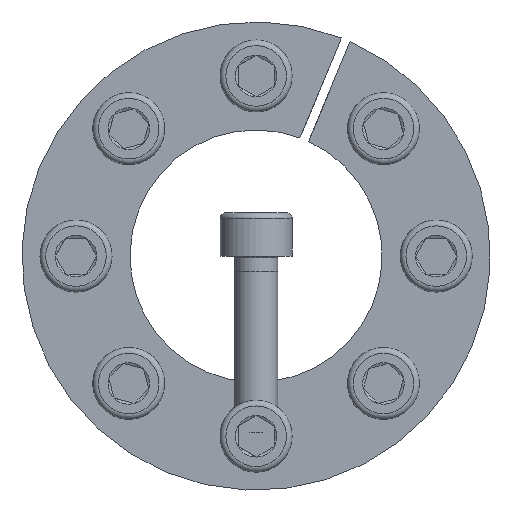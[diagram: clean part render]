
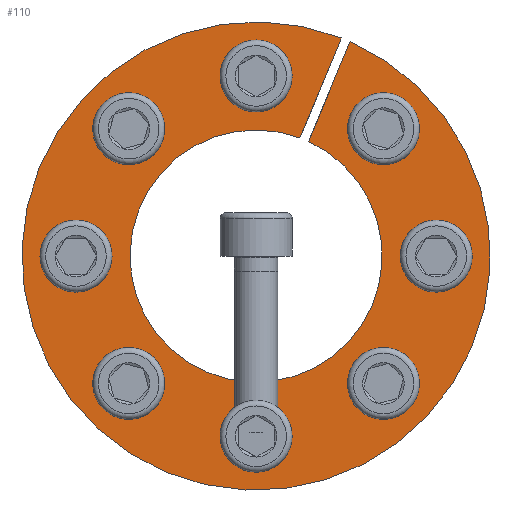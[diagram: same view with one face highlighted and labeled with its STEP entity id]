
A CAD part, front view. The second image highlights one B-rep face of the part: STEP entity #110.
In plain terms, the highlighted planar face has unit normal (0, -1, 0).
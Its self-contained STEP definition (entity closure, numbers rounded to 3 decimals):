
#110 = ADVANCED_FACE( '', ( #246, #247, #248, #249, #250, #251, #252, #253, #254 ), #255, .T. );
#246 = FACE_BOUND( '', #414, .T. );
#247 = FACE_BOUND( '', #415, .T. );
#248 = FACE_BOUND( '', #416, .T. );
#249 = FACE_BOUND( '', #417, .T. );
#250 = FACE_BOUND( '', #418, .T. );
#251 = FACE_BOUND( '', #419, .T. );
#252 = FACE_BOUND( '', #420, .T. );
#253 = FACE_BOUND( '', #421, .T. );
#254 = FACE_OUTER_BOUND( '', #422, .T. );
#255 = PLANE( '', #423 );
#414 = EDGE_LOOP( '', ( #686 ) );
#415 = EDGE_LOOP( '', ( #687 ) );
#416 = EDGE_LOOP( '', ( #688 ) );
#417 = EDGE_LOOP( '', ( #689 ) );
#418 = EDGE_LOOP( '', ( #690 ) );
#419 = EDGE_LOOP( '', ( #691 ) );
#420 = EDGE_LOOP( '', ( #692 ) );
#421 = EDGE_LOOP( '', ( #693 ) );
#422 = EDGE_LOOP( '', ( #694, #695, #696, #697 ) );
#423 = AXIS2_PLACEMENT_3D( '', #698, #699, #700 );
#686 = ORIENTED_EDGE( '', *, *, #917, .T. );
#687 = ORIENTED_EDGE( '', *, *, #907, .T. );
#688 = ORIENTED_EDGE( '', *, *, #919, .T. );
#689 = ORIENTED_EDGE( '', *, *, #915, .T. );
#690 = ORIENTED_EDGE( '', *, *, #887, .T. );
#691 = ORIENTED_EDGE( '', *, *, #920, .T. );
#692 = ORIENTED_EDGE( '', *, *, #868, .T. );
#693 = ORIENTED_EDGE( '', *, *, #921, .T. );
#694 = ORIENTED_EDGE( '', *, *, #865, .F. );
#695 = ORIENTED_EDGE( '', *, *, #878, .T. );
#696 = ORIENTED_EDGE( '', *, *, #883, .T. );
#697 = ORIENTED_EDGE( '', *, *, #909, .T. );
#698 = CARTESIAN_POINT( '', ( 0., 0., 17.5 ) );
#699 = DIRECTION( '', ( 0., -1., 0. ) );
#700 = DIRECTION( '', ( 0., 0., -1. ) );
#865 = EDGE_CURVE( '', #1045, #1047, #1048, .T. );
#868 = EDGE_CURVE( '', #1051, #1051, #1052, .T. );
#878 = EDGE_CURVE( '', #1045, #1066, #1068, .T. );
#883 = EDGE_CURVE( '', #1066, #1075, #1076, .T. );
#887 = EDGE_CURVE( '', #1081, #1081, #1082, .T. );
#907 = EDGE_CURVE( '', #1112, #1112, #1113, .T. );
#909 = EDGE_CURVE( '', #1075, #1047, #1115, .T. );
#915 = EDGE_CURVE( '', #1122, #1122, #1123, .T. );
#917 = EDGE_CURVE( '', #1125, #1125, #1126, .T. );
#919 = EDGE_CURVE( '', #1128, #1128, #1129, .T. );
#920 = EDGE_CURVE( '', #1130, #1130, #1131, .T. );
#921 = EDGE_CURVE( '', #1132, #1132, #1133, .T. );
#1045 = VERTEX_POINT( '', #1352 );
#1047 = VERTEX_POINT( '', #1355 );
#1048 = CIRCLE( '', #1356, 17.5 );
#1051 = VERTEX_POINT( '', #1360 );
#1052 = CIRCLE( '', #1361, 3. );
#1066 = VERTEX_POINT( '', #1384 );
#1068 = LINE( '', #1387, #1388 );
#1075 = VERTEX_POINT( '', #1395 );
#1076 = CIRCLE( '', #1396, 32.5 );
#1081 = VERTEX_POINT( '', #1402 );
#1082 = CIRCLE( '', #1403, 3. );
#1112 = VERTEX_POINT( '', #1436 );
#1113 = CIRCLE( '', #1437, 3. );
#1115 = LINE( '', #1439, #1440 );
#1122 = VERTEX_POINT( '', #1453 );
#1123 = CIRCLE( '', #1454, 3. );
#1125 = VERTEX_POINT( '', #1456 );
#1126 = CIRCLE( '', #1457, 3. );
#1128 = VERTEX_POINT( '', #1459 );
#1129 = CIRCLE( '', #1460, 3. );
#1130 = VERTEX_POINT( '', #1461 );
#1131 = CIRCLE( '', #1462, 3. );
#1132 = VERTEX_POINT( '', #1463 );
#1133 = CIRCLE( '', #1464, 3. );
#1352 = CARTESIAN_POINT( '', ( 6.092, 0., 16.405 ) );
#1355 = CARTESIAN_POINT( '', ( 7.293, 0., 15.908 ) );
#1356 = AXIS2_PLACEMENT_3D( '', #1571, #1572, #1573 );
#1360 = CARTESIAN_POINT( '', ( -25., 0., 3. ) );
#1361 = AXIS2_PLACEMENT_3D( '', #1575, #1576, #1577 );
#1384 = CARTESIAN_POINT( '', ( 11.834, 0., 30.269 ) );
#1387 = CARTESIAN_POINT( '', ( 6.092, 0., 16.405 ) );
#1388 = VECTOR( '', #1585, 1000. );
#1395 = CARTESIAN_POINT( '', ( 13.035, 0., 29.771 ) );
#1396 = AXIS2_PLACEMENT_3D( '', #1592, #1593, #1594 );
#1402 = CARTESIAN_POINT( '', ( -3., 0., -25. ) );
#1403 = AXIS2_PLACEMENT_3D( '', #1599, #1600, #1601 );
#1436 = CARTESIAN_POINT( '', ( 19.799, 0., 15.556 ) );
#1437 = AXIS2_PLACEMENT_3D( '', #1635, #1636, #1637 );
#1439 = CARTESIAN_POINT( '', ( 13.038, 0., 29.777 ) );
#1440 = VECTOR( '', #1638, 1000. );
#1453 = CARTESIAN_POINT( '', ( 15.556, 0., -19.799 ) );
#1454 = AXIS2_PLACEMENT_3D( '', #1642, #1643, #1644 );
#1456 = CARTESIAN_POINT( '', ( 3., 0., 25. ) );
#1457 = AXIS2_PLACEMENT_3D( '', #1645, #1646, #1647 );
#1459 = CARTESIAN_POINT( '', ( 25., 0., -3. ) );
#1460 = AXIS2_PLACEMENT_3D( '', #1648, #1649, #1650 );
#1461 = CARTESIAN_POINT( '', ( -19.799, 0., -15.556 ) );
#1462 = AXIS2_PLACEMENT_3D( '', #1651, #1652, #1653 );
#1463 = CARTESIAN_POINT( '', ( -15.556, 0., 19.799 ) );
#1464 = AXIS2_PLACEMENT_3D( '', #1654, #1655, #1656 );
#1571 = CARTESIAN_POINT( '', ( 0., 0., 0. ) );
#1572 = DIRECTION( '', ( 0., -1., 0. ) );
#1573 = DIRECTION( '', ( 0., 0., -1. ) );
#1575 = CARTESIAN_POINT( '', ( -25., 0., 0. ) );
#1576 = DIRECTION( '', ( 0., 1., 0. ) );
#1577 = DIRECTION( '', ( 0., 0., 1. ) );
#1585 = DIRECTION( '', ( 0.383, 0., 0.924 ) );
#1592 = CARTESIAN_POINT( '', ( 0., 0., 0. ) );
#1593 = DIRECTION( '', ( 0., -1., 0. ) );
#1594 = DIRECTION( '', ( 0., 0., -1. ) );
#1599 = CARTESIAN_POINT( '', ( 0., 0., -25. ) );
#1600 = DIRECTION( '', ( 0., 1., 0. ) );
#1601 = DIRECTION( '', ( -1., 0., 0. ) );
#1635 = CARTESIAN_POINT( '', ( 17.678, 0., 17.678 ) );
#1636 = DIRECTION( '', ( 0., 1., 0. ) );
#1637 = DIRECTION( '', ( 0.707, 0., -0.707 ) );
#1638 = DIRECTION( '', ( -0.383, 0., -0.924 ) );
#1642 = CARTESIAN_POINT( '', ( 17.678, 0., -17.678 ) );
#1643 = DIRECTION( '', ( 0., 1., 0. ) );
#1644 = DIRECTION( '', ( -0.707, 0., -0.707 ) );
#1645 = CARTESIAN_POINT( '', ( 0., 0., 25. ) );
#1646 = DIRECTION( '', ( 0., 1., 0. ) );
#1647 = DIRECTION( '', ( 1., 0., 0. ) );
#1648 = CARTESIAN_POINT( '', ( 25., 0., 0. ) );
#1649 = DIRECTION( '', ( 0., 1., 0. ) );
#1650 = DIRECTION( '', ( 0., 0., -1. ) );
#1651 = CARTESIAN_POINT( '', ( -17.678, 0., -17.678 ) );
#1652 = DIRECTION( '', ( 0., 1., 0. ) );
#1653 = DIRECTION( '', ( -0.707, 0., 0.707 ) );
#1654 = CARTESIAN_POINT( '', ( -17.678, 0., 17.678 ) );
#1655 = DIRECTION( '', ( 0., 1., 0. ) );
#1656 = DIRECTION( '', ( 0.707, 0., 0.707 ) );
